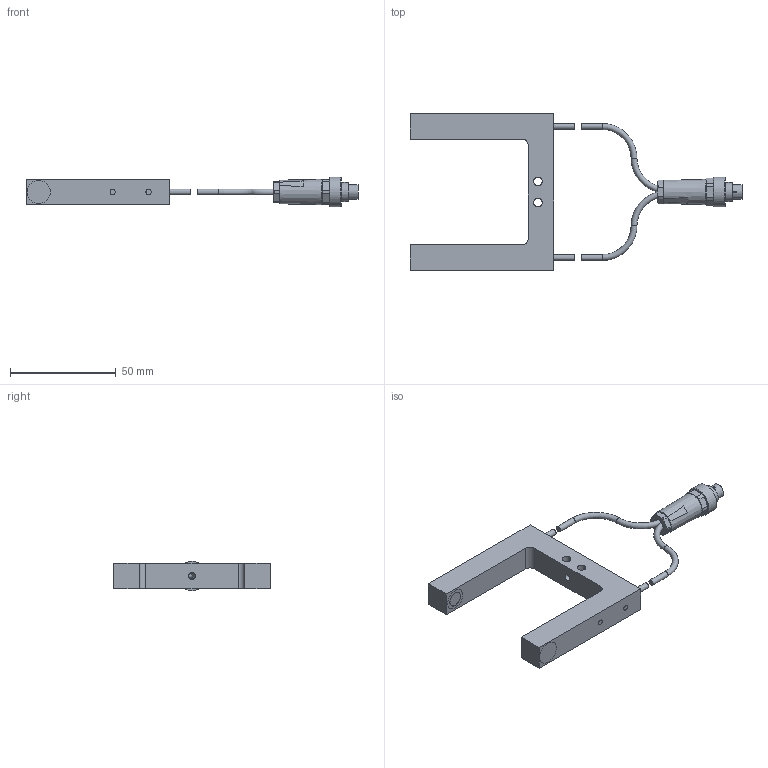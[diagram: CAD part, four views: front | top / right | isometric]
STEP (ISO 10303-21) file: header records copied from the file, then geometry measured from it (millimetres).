
FILE_DESCRIPTION(/* description */ (''),/* implementation_level */ '2;1');
FILE_NAME(/* name */ 'H:\ZVW\Inventor\E-Mail-Zeichnungen\STEP\HOMEPAGE\A-LAS-F12-...-50_50-C_0720_00.stp',/* time_stamp */ '2014-08-18T16:42:40+02:00',/* author */ ('TK-01'),/* organization */ (''),/* preprocessor_version */ 'ST-DEVELOPER v15.2',/* originating_system */ 'Autodesk Inventor 2014',/* authorisation */ '');
FILE_SCHEMA (('AUTOMOTIVE_DESIGN { 1 0 10303 214 3 1 1 }'));
Length unit declared in the file: millimetre
Products named in the file (1): Bauteil18
Bounding box: 157.1 x 74 x 14 mm (x, y, z)
Volume: 110113.4 mm3; surface area: 42223.3 mm2
Topology: 8 solids, 12 shells, 160 faces, 352 edges, 232 vertices
Faces by surface type: plane 72, cylinder 60, cone 11, sphere 9, torus 6, bspline 2
Full cylindrical faces by diameter (mm): 0.5 x7, 2.5 x8, 2.8 x4, 2.9 x2, 3.2 x1, 4.1 x2, 5.5 x1, 6 x1, 6.8 x1, 7.1 x1, 7.15 x2, 7.5 x1, 8 x1, 9 x2, 10 x2, 14 x1
Entity records: 4361 total; most frequent: CARTESIAN_POINT 931, DIRECTION 708, ORIENTED_EDGE 544, AXIS2_PLACEMENT_3D 310, EDGE_CURVE 268, EDGE_LOOP 250, VERTEX_POINT 204, ADVANCED_FACE 160
